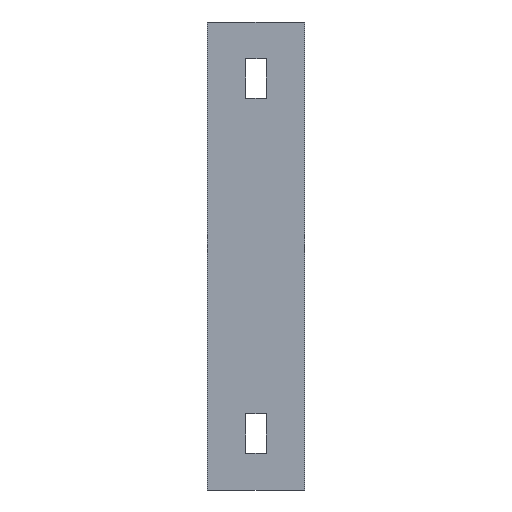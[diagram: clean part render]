
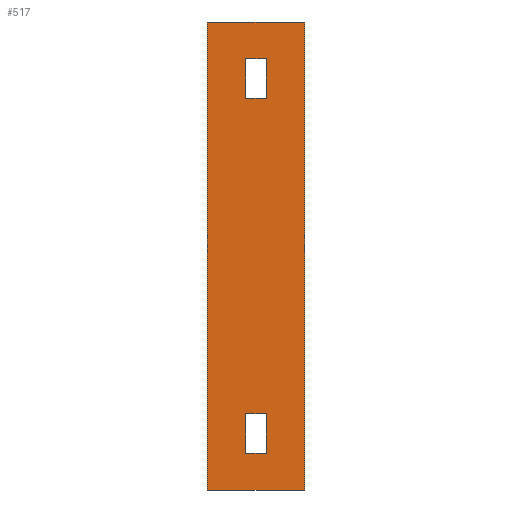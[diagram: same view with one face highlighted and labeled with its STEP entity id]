
A CAD part, front view. The second image highlights one B-rep face of the part: STEP entity #517.
In plain terms, the highlighted planar face has unit normal (0, -1, 0).
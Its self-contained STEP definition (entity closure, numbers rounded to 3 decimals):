
#57=CARTESIAN_POINT('Line Origine',(-7.5,469.295,294.697)) ;
#61=CARTESIAN_POINT('Vertex',(-20.,469.295,294.697)) ;
#63=CARTESIAN_POINT('Vertex',(5.,469.295,294.697)) ;
#92=CARTESIAN_POINT('Line Origine',(17.5,469.295,294.697)) ;
#96=CARTESIAN_POINT('Vertex',(30.,469.295,294.697)) ;
#123=CARTESIAN_POINT('Line Origine',(30.,469.295,175.)) ;
#127=CARTESIAN_POINT('Vertex',(30.,469.295,55.303)) ;
#154=CARTESIAN_POINT('Line Origine',(17.5,469.295,55.303)) ;
#158=CARTESIAN_POINT('Vertex',(5.,469.295,55.303)) ;
#180=CARTESIAN_POINT('Line Origine',(-7.5,469.295,55.303)) ;
#184=CARTESIAN_POINT('Vertex',(-20.,469.295,55.303)) ;
#211=CARTESIAN_POINT('Line Origine',(-20.,469.295,175.)) ;
#239=CARTESIAN_POINT('Vertex',(10.2,469.295,275.981)) ;
#253=CARTESIAN_POINT('Vertex',(10.2,469.295,255.581)) ;
#256=CARTESIAN_POINT('Line Origine',(10.2,469.295,265.781)) ;
#279=CARTESIAN_POINT('Vertex',(-0.2,469.295,275.981)) ;
#287=CARTESIAN_POINT('Line Origine',(5.,469.295,275.981)) ;
#310=CARTESIAN_POINT('Vertex',(-0.2,469.295,255.581)) ;
#318=CARTESIAN_POINT('Line Origine',(-0.2,469.295,265.781)) ;
#340=CARTESIAN_POINT('Line Origine',(5.,469.295,255.581)) ;
#363=CARTESIAN_POINT('Vertex',(-0.2,469.295,94.419)) ;
#377=CARTESIAN_POINT('Vertex',(10.2,469.295,94.419)) ;
#380=CARTESIAN_POINT('Line Origine',(5.,469.295,94.419)) ;
#398=CARTESIAN_POINT('Vertex',(-0.2,469.295,74.019)) ;
#406=CARTESIAN_POINT('Line Origine',(-0.2,469.295,84.219)) ;
#429=CARTESIAN_POINT('Vertex',(10.2,469.295,74.019)) ;
#437=CARTESIAN_POINT('Line Origine',(5.,469.295,74.019)) ;
#454=CARTESIAN_POINT('Line Origine',(10.2,469.295,84.219)) ;
#492=CARTESIAN_POINT('Axis2P3D Location',(0.,469.295,0.)) ;
#58=DIRECTION('Vector Direction',(1.,0.,0.)) ;
#93=DIRECTION('Vector Direction',(1.,0.,0.)) ;
#124=DIRECTION('Vector Direction',(0.,0.,-1.)) ;
#155=DIRECTION('Vector Direction',(1.,0.,0.)) ;
#181=DIRECTION('Vector Direction',(1.,0.,0.)) ;
#212=DIRECTION('Vector Direction',(0.,0.,-1.)) ;
#257=DIRECTION('Vector Direction',(0.,0.,-1.)) ;
#288=DIRECTION('Vector Direction',(1.,0.,0.)) ;
#319=DIRECTION('Vector Direction',(0.,0.,1.)) ;
#341=DIRECTION('Vector Direction',(-1.,0.,0.)) ;
#381=DIRECTION('Vector Direction',(-1.,0.,0.)) ;
#407=DIRECTION('Vector Direction',(0.,0.,-1.)) ;
#438=DIRECTION('Vector Direction',(1.,0.,0.)) ;
#455=DIRECTION('Vector Direction',(0.,0.,1.)) ;
#493=DIRECTION('Axis2P3D Direction',(0.,1.,0.)) ;
#494=DIRECTION('Axis2P3D XDirection',(-1.,0.,0.)) ;
#495=AXIS2_PLACEMENT_3D('Plane Axis2P3D',#492,#493,#494) ;
#498=ORIENTED_EDGE('',*,*,#215,.F.) ;
#499=ORIENTED_EDGE('',*,*,#186,.F.) ;
#500=ORIENTED_EDGE('',*,*,#160,.F.) ;
#501=ORIENTED_EDGE('',*,*,#129,.F.) ;
#502=ORIENTED_EDGE('',*,*,#98,.F.) ;
#503=ORIENTED_EDGE('',*,*,#65,.F.) ;
#506=ORIENTED_EDGE('',*,*,#344,.T.) ;
#507=ORIENTED_EDGE('',*,*,#322,.T.) ;
#508=ORIENTED_EDGE('',*,*,#291,.T.) ;
#509=ORIENTED_EDGE('',*,*,#260,.T.) ;
#512=ORIENTED_EDGE('',*,*,#458,.T.) ;
#513=ORIENTED_EDGE('',*,*,#441,.T.) ;
#514=ORIENTED_EDGE('',*,*,#410,.T.) ;
#515=ORIENTED_EDGE('',*,*,#384,.T.) ;
#510=FACE_BOUND('',#505,.T.) ;
#516=FACE_BOUND('',#511,.T.) ;
#59=VECTOR('Line Direction',#58,1.) ;
#94=VECTOR('Line Direction',#93,1.) ;
#125=VECTOR('Line Direction',#124,1.) ;
#156=VECTOR('Line Direction',#155,1.) ;
#182=VECTOR('Line Direction',#181,1.) ;
#213=VECTOR('Line Direction',#212,1.) ;
#258=VECTOR('Line Direction',#257,1.) ;
#289=VECTOR('Line Direction',#288,1.) ;
#320=VECTOR('Line Direction',#319,1.) ;
#342=VECTOR('Line Direction',#341,1.) ;
#382=VECTOR('Line Direction',#381,1.) ;
#408=VECTOR('Line Direction',#407,1.) ;
#439=VECTOR('Line Direction',#438,1.) ;
#456=VECTOR('Line Direction',#455,1.) ;
#517=ADVANCED_FACE('Body.2',(#504,#510,#516),#496,.F.) ;
#65=EDGE_CURVE('',#62,#64,#60,.T.) ;
#98=EDGE_CURVE('',#64,#97,#95,.T.) ;
#129=EDGE_CURVE('',#97,#128,#126,.T.) ;
#160=EDGE_CURVE('',#128,#159,#157,.F.) ;
#186=EDGE_CURVE('',#159,#185,#183,.F.) ;
#215=EDGE_CURVE('',#185,#62,#214,.F.) ;
#260=EDGE_CURVE('',#240,#254,#259,.T.) ;
#291=EDGE_CURVE('',#280,#240,#290,.T.) ;
#322=EDGE_CURVE('',#311,#280,#321,.T.) ;
#344=EDGE_CURVE('',#254,#311,#343,.T.) ;
#384=EDGE_CURVE('',#364,#378,#383,.F.) ;
#410=EDGE_CURVE('',#399,#364,#409,.F.) ;
#441=EDGE_CURVE('',#430,#399,#440,.F.) ;
#458=EDGE_CURVE('',#378,#430,#457,.F.) ;
#497=EDGE_LOOP('',(#498,#499,#500,#501,#502,#503)) ;
#505=EDGE_LOOP('',(#506,#507,#508,#509)) ;
#511=EDGE_LOOP('',(#512,#513,#514,#515)) ;
#504=FACE_OUTER_BOUND('',#497,.T.) ;
#60=LINE('Line',#57,#59) ;
#95=LINE('Line',#92,#94) ;
#126=LINE('Line',#123,#125) ;
#157=LINE('Line',#154,#156) ;
#183=LINE('Line',#180,#182) ;
#214=LINE('Line',#211,#213) ;
#259=LINE('Line',#256,#258) ;
#290=LINE('Line',#287,#289) ;
#321=LINE('Line',#318,#320) ;
#343=LINE('Line',#340,#342) ;
#383=LINE('Line',#380,#382) ;
#409=LINE('Line',#406,#408) ;
#440=LINE('Line',#437,#439) ;
#457=LINE('Line',#454,#456) ;
#496=PLANE('Plane',#495) ;
#62=VERTEX_POINT('',#61) ;
#64=VERTEX_POINT('',#63) ;
#97=VERTEX_POINT('',#96) ;
#128=VERTEX_POINT('',#127) ;
#159=VERTEX_POINT('',#158) ;
#185=VERTEX_POINT('',#184) ;
#240=VERTEX_POINT('',#239) ;
#254=VERTEX_POINT('',#253) ;
#280=VERTEX_POINT('',#279) ;
#311=VERTEX_POINT('',#310) ;
#364=VERTEX_POINT('',#363) ;
#378=VERTEX_POINT('',#377) ;
#399=VERTEX_POINT('',#398) ;
#430=VERTEX_POINT('',#429) ;
